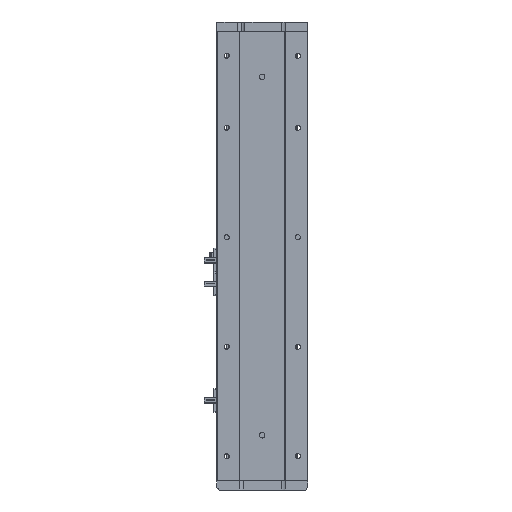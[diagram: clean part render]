
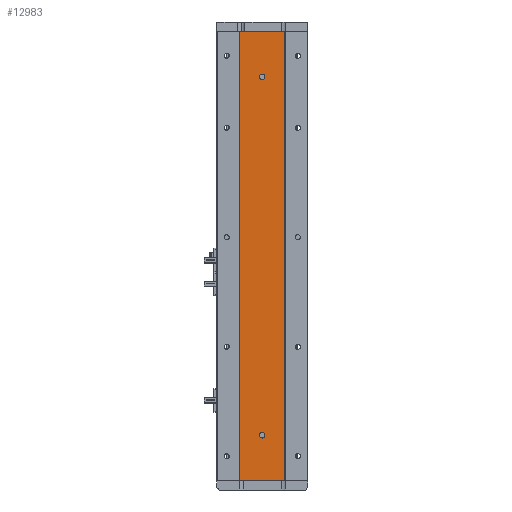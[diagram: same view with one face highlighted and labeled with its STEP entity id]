
A CAD part, left-side view. The second image highlights one B-rep face of the part: STEP entity #12983.
In plain terms, the highlighted planar face has unit normal (-1, 0, 0).
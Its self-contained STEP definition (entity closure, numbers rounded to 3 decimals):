
#1458 = DIRECTION ( 'NONE',  ( 0., 0., -1. ) ) ;
#2688 = CARTESIAN_POINT ( 'NONE',  ( -18.926, 0., 47. ) ) ;
#3280 = DIRECTION ( 'NONE',  ( -1., 0., 0. ) ) ;
#4031 = VERTEX_POINT ( 'NONE', #2688 ) ;
#5248 = CARTESIAN_POINT ( 'NONE',  ( -18.926, 24.785, 0. ) ) ;
#6235 = VERTEX_POINT ( 'NONE', #27854 ) ;
#6285 = VECTOR ( 'NONE', #18731, 1000. ) ;
#6950 = EDGE_CURVE ( 'NONE', #29478, #27141, #32250, .T. ) ;
#6982 = CIRCLE ( 'NONE', #25483, 3. ) ;
#7072 = VECTOR ( 'NONE', #30501, 1000. ) ;
#7121 = EDGE_CURVE ( 'NONE', #4031, #6235, #6982, .T. ) ;
#7279 = DIRECTION ( 'NONE',  ( -1., 0., 0. ) ) ;
#8307 = LINE ( 'NONE', #10731, #29101 ) ;
#8757 = CIRCLE ( 'NONE', #32036, 3. ) ;
#10581 = DIRECTION ( 'NONE',  ( 0., -1., 0. ) ) ;
#10731 = CARTESIAN_POINT ( 'NONE',  ( -18.926, 24.785, 493. ) ) ;
#10779 = EDGE_LOOP ( 'NONE', ( #17081, #29506, #31939, #12397 ) ) ;
#11009 = CARTESIAN_POINT ( 'NONE',  ( -18.926, -24.785, 493. ) ) ;
#11233 = CARTESIAN_POINT ( 'NONE',  ( -18.926, 0., 50. ) ) ;
#11427 = CIRCLE ( 'NONE', #15715, 3. ) ;
#12150 = FACE_BOUND ( 'NONE', #16138, .T. ) ;
#12397 = ORIENTED_EDGE ( 'NONE', *, *, #24797, .T. ) ;
#12758 = EDGE_LOOP ( 'NONE', ( #29712, #16916 ) ) ;
#12817 = DIRECTION ( 'NONE',  ( -1., 0., 0. ) ) ;
#12983 = ADVANCED_FACE ( 'NONE', ( #26044, #12150, #32025 ), #32574, .F. ) ;
#13879 = DIRECTION ( 'NONE',  ( 0., 0., 1. ) ) ;
#14135 = EDGE_CURVE ( 'NONE', #6235, #4031, #19462, .T. ) ;
#14510 = CARTESIAN_POINT ( 'NONE',  ( -18.926, -24.785, 0. ) ) ;
#15112 = AXIS2_PLACEMENT_3D ( 'NONE', #28413, #12817, #30974 ) ;
#15715 = AXIS2_PLACEMENT_3D ( 'NONE', #19050, #3280, #21686 ) ;
#16138 = EDGE_LOOP ( 'NONE', ( #20966, #31002 ) ) ;
#16199 = CARTESIAN_POINT ( 'NONE',  ( -18.926, 24.785, 493. ) ) ;
#16916 = ORIENTED_EDGE ( 'NONE', *, *, #23284, .F. ) ;
#17081 = ORIENTED_EDGE ( 'NONE', *, *, #6950, .T. ) ;
#17222 = DIRECTION ( 'NONE',  ( 1., 0., 0. ) ) ;
#18731 = DIRECTION ( 'NONE',  ( 0., 0., -1. ) ) ;
#19050 = CARTESIAN_POINT ( 'NONE',  ( -18.926, 0., 443. ) ) ;
#19435 = VERTEX_POINT ( 'NONE', #33775 ) ;
#19462 = CIRCLE ( 'NONE', #15112, 3. ) ;
#20004 = CARTESIAN_POINT ( 'NONE',  ( -18.926, 24.785, 0. ) ) ;
#20966 = ORIENTED_EDGE ( 'NONE', *, *, #14135, .F. ) ;
#21085 = LINE ( 'NONE', #22652, #7072 ) ;
#21388 = VERTEX_POINT ( 'NONE', #11009 ) ;
#21648 = CARTESIAN_POINT ( 'NONE',  ( -18.926, 0., 440. ) ) ;
#21686 = DIRECTION ( 'NONE',  ( 0., 0., 1. ) ) ;
#22563 = VERTEX_POINT ( 'NONE', #21648 ) ;
#22652 = CARTESIAN_POINT ( 'NONE',  ( -18.926, -24.785, 493. ) ) ;
#22799 = CARTESIAN_POINT ( 'NONE',  ( -18.926, 0., 446. ) ) ;
#23040 = CARTESIAN_POINT ( 'NONE',  ( -18.926, 0., 443. ) ) ;
#23284 = EDGE_CURVE ( 'NONE', #22563, #31088, #11427, .T. ) ;
#24797 = EDGE_CURVE ( 'NONE', #19435, #29478, #29949, .T. ) ;
#25300 = EDGE_CURVE ( 'NONE', #19435, #21388, #8307, .T. ) ;
#25483 = AXIS2_PLACEMENT_3D ( 'NONE', #11233, #29430, #13879 ) ;
#25600 = DIRECTION ( 'NONE',  ( 0., 0., 1. ) ) ;
#26044 = FACE_BOUND ( 'NONE', #12758, .T. ) ;
#26376 = DIRECTION ( 'NONE',  ( 0., -1., 0. ) ) ;
#27141 = VERTEX_POINT ( 'NONE', #14510 ) ;
#27854 = CARTESIAN_POINT ( 'NONE',  ( -18.926, 0., 53. ) ) ;
#28413 = CARTESIAN_POINT ( 'NONE',  ( -18.926, 0., 50. ) ) ;
#29055 = VECTOR ( 'NONE', #10581, 1000. ) ;
#29101 = VECTOR ( 'NONE', #26376, 1000. ) ;
#29430 = DIRECTION ( 'NONE',  ( -1., 0., 0. ) ) ;
#29478 = VERTEX_POINT ( 'NONE', #20004 ) ;
#29506 = ORIENTED_EDGE ( 'NONE', *, *, #30016, .F. ) ;
#29712 = ORIENTED_EDGE ( 'NONE', *, *, #33625, .F. ) ;
#29949 = LINE ( 'NONE', #16199, #6285 ) ;
#30016 = EDGE_CURVE ( 'NONE', #21388, #27141, #21085, .T. ) ;
#30023 = AXIS2_PLACEMENT_3D ( 'NONE', #32693, #17222, #1458 ) ;
#30501 = DIRECTION ( 'NONE',  ( 0., 0., -1. ) ) ;
#30974 = DIRECTION ( 'NONE',  ( 0., 0., 1. ) ) ;
#31002 = ORIENTED_EDGE ( 'NONE', *, *, #7121, .F. ) ;
#31088 = VERTEX_POINT ( 'NONE', #22799 ) ;
#31939 = ORIENTED_EDGE ( 'NONE', *, *, #25300, .F. ) ;
#32025 = FACE_OUTER_BOUND ( 'NONE', #10779, .T. ) ;
#32036 = AXIS2_PLACEMENT_3D ( 'NONE', #23040, #7279, #25600 ) ;
#32250 = LINE ( 'NONE', #5248, #29055 ) ;
#32574 = PLANE ( 'NONE',  #30023 ) ;
#32693 = CARTESIAN_POINT ( 'NONE',  ( -18.926, 24.785, 493. ) ) ;
#33625 = EDGE_CURVE ( 'NONE', #31088, #22563, #8757, .T. ) ;
#33775 = CARTESIAN_POINT ( 'NONE',  ( -18.926, 24.785, 493. ) ) ;
